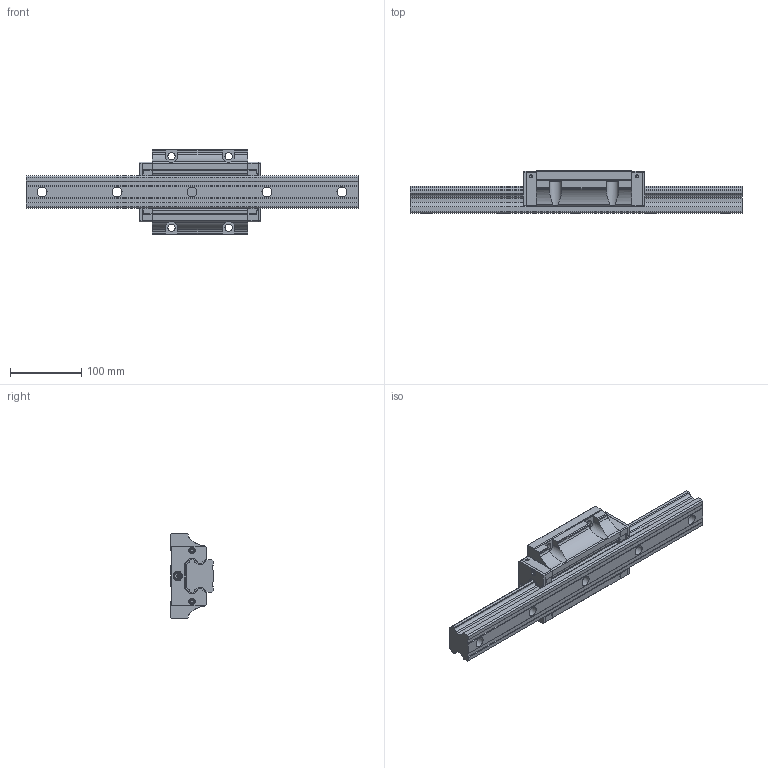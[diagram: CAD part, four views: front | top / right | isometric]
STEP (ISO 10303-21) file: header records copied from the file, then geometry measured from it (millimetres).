
FILE_DESCRIPTION( ( 'STEP AP214' ), '1' );
FILE_NAME( 'C:/Users/tu200/Desktop/賅筐葭/BSQ賅筐葭/VISIDATA/MAIL1/MCH45LF.stp', '2020-03-27T05:07:05', ( ' ' ), ( ' ' ), 'XStep 1.0', 'VISICAD', ' ' );
FILE_SCHEMA( ( 'automotive_design' ) );
Length unit declared in the file: metre
Products named in the file (4): 1; 2; 3; 4
Bounding box: 465 x 60 x 120 mm (x, y, z)
Volume: 1182570.7 mm3; surface area: 207214.8 mm2
Topology: 4 solids, 40 shells, 1583 faces, 4395 edges, 2921 vertices
Faces by surface type: plane 1053, cylinder 354, bspline 144, extrusion 12, sphere 8, torus 8, cone 4
Full cylindrical faces by diameter (mm): 2.92 x2, 3.4 x4, 3.7 x4, 4.7 x8, 6.6 x4, 8.4 x2, 9 x4, 10.2 x4, 10.4 x2, 13 x2, 14 x5, 20 x5
Entity records: 72468 total; most frequent: CARTESIAN_POINT 21097, ORIENTED_EDGE 8608, DIRECTION 7104, EDGE_CURVE 4304, VERTEX_POINT 2892, VECTOR 2814, LINE 2802, AXIS2_PLACEMENT_3D 2145
